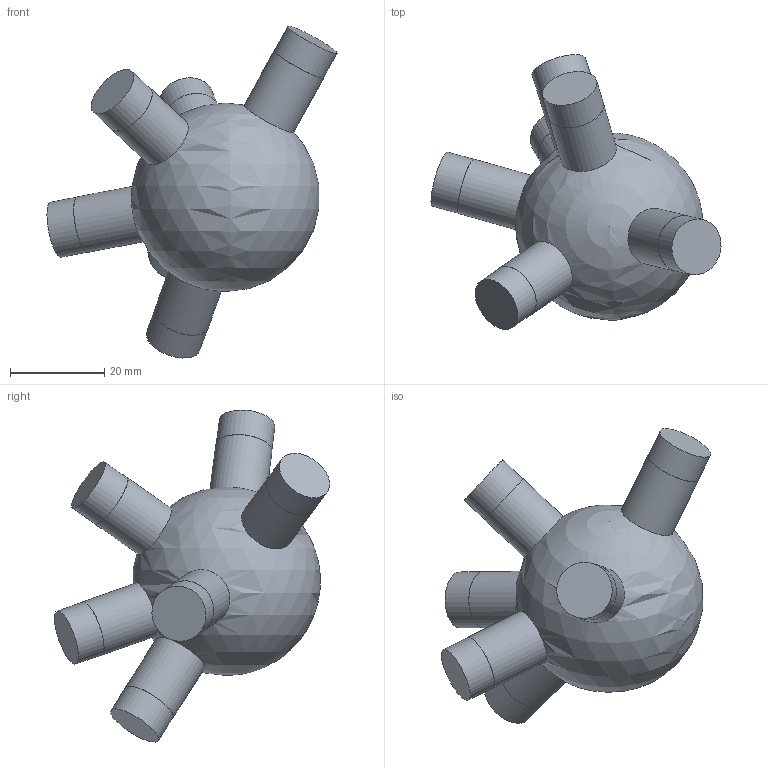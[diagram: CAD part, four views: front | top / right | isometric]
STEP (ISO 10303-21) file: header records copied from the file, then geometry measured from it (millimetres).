
FILE_DESCRIPTION(('Open CASCADE Model'),'2;1');
FILE_NAME('Open CASCADE Shape Model','2026-10-21T12:47:57',('Author'),( 'Open CASCADE'),'Open CASCADE STEP processor 7.9','Open CASCADE 7.9' ,'Unknown');
FILE_SCHEMA(('AUTOMOTIVE_DESIGN { 1 0 10303 214 1 1 1 1 }'));
Length unit declared in the file: millimetre
Products named in the file (1): Open CASCADE STEP translator 7.9 74
Bounding box: 61.55 x 58.37 x 70.45 mm (x, y, z)
Volume: 45668.4 mm3; surface area: 9179.5 mm2
Topology: 1 solids, 1 shells, 25 faces, 41 edges, 28 vertices
Faces by surface type: cylinder 12, plane 12, sphere 1
Full cylindrical faces by diameter (mm): 11.9 x6, 12 x6
Entity records: 1526 total; most frequent: CARTESIAN_POINT 592, DIRECTION 192, ORIENTED_EDGE 80, PCURVE 80, DEFINITIONAL_REPRESENTATION 80, LINE 66, VECTOR 66, AXIS2_PLACEMENT_3D 54
